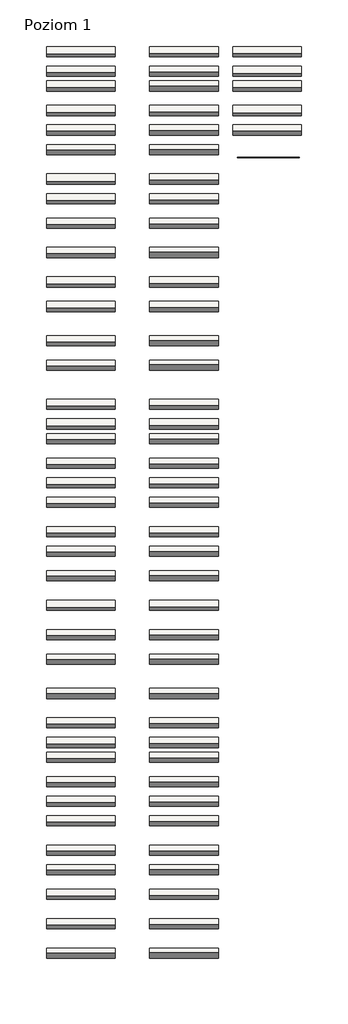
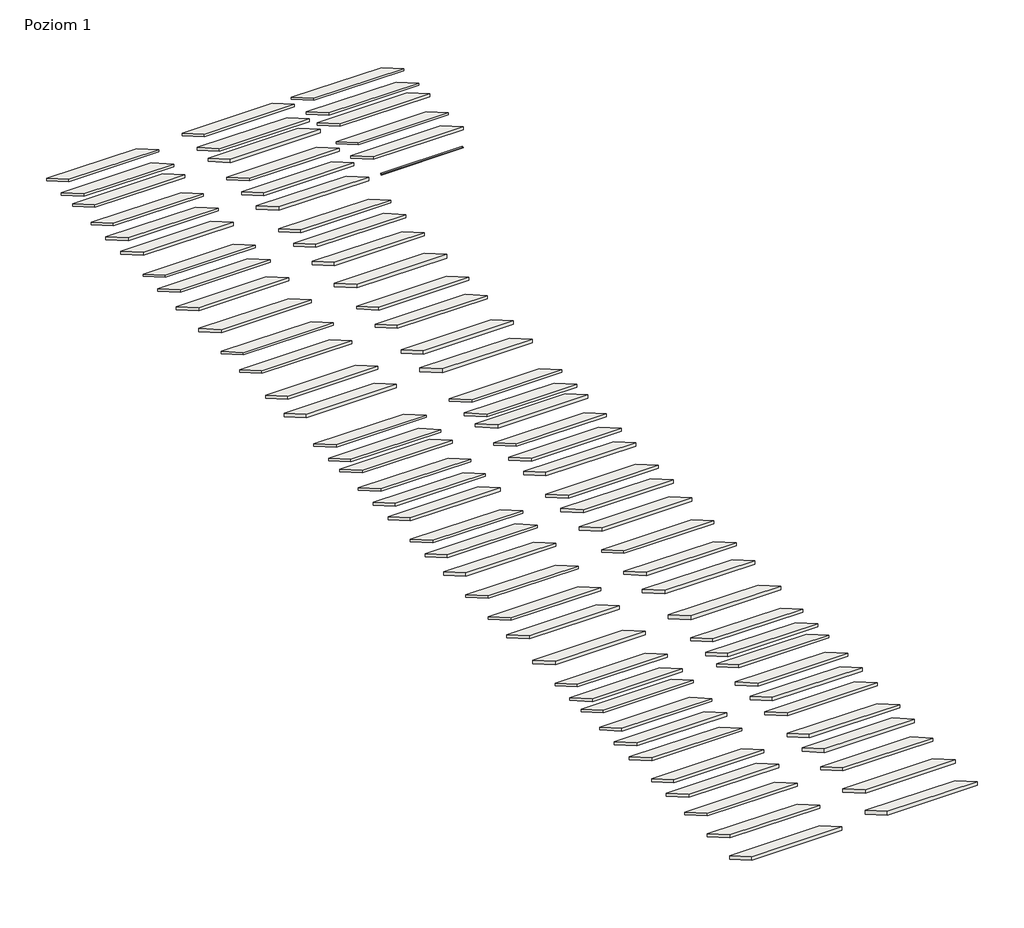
# One storey: 81 roofs, 1 beam.
"""IFC4 building model written with IfcOpenShell, lengths in millimetres."""

from ifc_helpers import new_model, si_unit, frame, origin, place, context, project, spatial, polyline, outline, extrude, transform, mapped, element, save
from components import beam_184x337_66fae1c3

model = new_model("IFC4")

# Units and contexts
model_context = context("Model", 3, world=origin())
ifc_project = project(units=[si_unit("LENGTHUNIT", "METRE", prefix="MILLI")], contexts=[model_context])

# Site, building, storey
site = spatial("IfcSite", under=ifc_project)
building = spatial("IfcBuilding", under=site)
storey = spatial("IfcBuildingStorey", under=building, Name="Poziom 1", Elevation=0.0)

# Beam
placement = place(None, origin())
beam_184x337_shape = beam_184x337_66fae1c3(model_context)
element("IfcBeam", 1, ObjectType="ISOVER - Belka RENOVER : 184x337", at=placement, inside=storey, context=model_context, shape_type="MappedRepresentation", body=[
    mapped(beam_184x337_shape, transform((24338.0764373, -23408.5438841, 1121.5), x_axis=(1.0, 0.0, 0.0), y_axis=(0.0, 1.0, 0.0), z_axis=(0.0, 0.0, 1.0))),
])

# Roofs
element("IfcRoof", 2, ObjectType="ISOVER.DS.M.SUP120_100.U0,17", at=placement, inside=storey, context=model_context, shape_type="SweptSolid", body=[
    extrude(outline(polyline([(-6769.9703244, 3819.1720307), (-769.9703244, 355.0704156), (-769.9703244, 0.0), (-6769.9703244, 3464.1016151), (-6769.9703244, 3819.1720307)])), frame((-20986.0988218, 0.0, 0.0), z_axis=(1.0, 0.0, 0.0), x_axis=(0.0, 1.0, 0.0)), (0.0, 0.0, 1.0), 14000.0),
])
element("IfcRoof", 3, ObjectType="ISOVER.DS.M.SUP120_150.U0,13", at=placement, inside=storey, context=model_context, shape_type="SweptSolid", body=[
    extrude(outline(polyline([(-10769.9703244, 3876.9070576), (-4769.9703244, 412.8054425), (-4769.9703244, 0.0), (-10769.9703244, 3464.1016151), (-10769.9703244, 3876.9070576)])), frame((-20986.0988218, 0.0, 0.0), z_axis=(1.0, 0.0, 0.0), x_axis=(0.0, 1.0, 0.0)), (0.0, 0.0, 1.0), 14000.0),
])
element("IfcRoof", 4, ObjectType="ISOVER.DS.M.SUP120_200.U0,11", at=placement, inside=storey, context=model_context, shape_type="SweptSolid", body=[
    extrude(outline(polyline([(-13769.9703244, 3934.6420845), (-7769.9703244, 470.5404694), (-7769.9703244, 0.0), (-13769.9703244, 3464.1016151), (-13769.9703244, 3934.6420845)])), frame((-20986.0988218, 0.0, 0.0), z_axis=(1.0, 0.0, 0.0), x_axis=(0.0, 1.0, 0.0)), (0.0, 0.0, 1.0), 14000.0),
])
element("IfcRoof", 5, ObjectType="ISOVER.DS.M.SUP150_100.U0,15", at=placement, inside=storey, context=model_context, shape_type="SweptSolid", body=[
    extrude(outline(polyline([(-18769.9703244, 3853.8130468), (-12769.9703244, 389.7114317), (-12769.9703244, 0.0), (-18769.9703244, 3464.1016151), (-18769.9703244, 3853.8130468)])), frame((-20986.0988218, 0.0, 0.0), z_axis=(1.0, 0.0, 0.0), x_axis=(0.0, 1.0, 0.0)), (0.0, 0.0, 1.0), 14000.0),
])
element("IfcRoof", 6, ObjectType="ISOVER.DS.M.SUP150_150.U0,12", at=placement, inside=storey, context=model_context, shape_type="SweptSolid", body=[
    extrude(outline(polyline([(-22769.9703244, 3911.5480738), (-16769.9703244, 447.4464586), (-16769.9703244, 0.0), (-22769.9703244, 3464.1016151), (-22769.9703244, 3911.5480738)])), frame((-20986.0988218, 0.0, 0.0), z_axis=(1.0, 0.0, 0.0), x_axis=(0.0, 1.0, 0.0)), (0.0, 0.0, 1.0), 14000.0),
])
element("IfcRoof", 7, ObjectType="ISOVER.DS.M.SUP150_200.U0,10", at=placement, inside=storey, context=model_context, shape_type="SweptSolid", body=[
    extrude(outline(polyline([(-26769.9703244, 3969.2831007), (-20769.9703244, 505.1814855), (-20769.9703244, 0.0), (-26769.9703244, 3464.1016151), (-26769.9703244, 3969.2831007)])), frame((-20986.0988218, 0.0, 0.0), z_axis=(1.0, 0.0, 0.0), x_axis=(0.0, 1.0, 0.0)), (0.0, 0.0, 1.0), 14000.0),
])
element("IfcRoof", 8, ObjectType="ISOVER.DS.M.SUP180_50.U0,18", at=placement, inside=storey, context=model_context, shape_type="SweptSolid", body=[
    extrude(outline(polyline([(-32769.9703244, 3830.7190361), (-26769.9703244, 366.6174209), (-26769.9703244, 0.0), (-32769.9703244, 3464.1016151), (-32769.9703244, 3830.7190361)])), frame((-20986.0988218, 0.0, 0.0), z_axis=(1.0, 0.0, 0.0), x_axis=(0.0, 1.0, 0.0)), (0.0, 0.0, 1.0), 14000.0),
])
element("IfcRoof", 9, ObjectType="ISOVER.DS.M.SUP180_100.U0,14", at=placement, inside=storey, context=model_context, shape_type="SweptSolid", body=[
    extrude(outline(polyline([(-36769.9703244, 3888.454063), (-30769.9703244, 424.3524479), (-30769.9703244, 0.0), (-36769.9703244, 3464.1016151), (-36769.9703244, 3888.454063)])), frame((-20986.0988218, 0.0, 0.0), z_axis=(1.0, 0.0, 0.0), x_axis=(0.0, 1.0, 0.0)), (0.0, 0.0, 1.0), 14000.0),
])
element("IfcRoof", 10, ObjectType="ISOVER.DS.M.SUP180_150.U0,11", at=placement, inside=storey, context=model_context, shape_type="SweptSolid", body=[
    extrude(outline(polyline([(-41769.9703244, 3946.1890899), (-35769.9703244, 482.0874748), (-35769.9703244, 0.0), (-41769.9703244, 3464.1016151), (-41769.9703244, 3946.1890899)])), frame((-20986.0988218, 0.0, 0.0), z_axis=(1.0, 0.0, 0.0), x_axis=(0.0, 1.0, 0.0)), (0.0, 0.0, 1.0), 14000.0),
])
element("IfcRoof", 11, ObjectType="ISOVER.DS.M.SUP180_200.U0,10", at=placement, inside=storey, context=model_context, shape_type="SweptSolid", body=[
    extrude(outline(polyline([(-47769.9703244, 4003.9241168), (-41769.9703244, 539.8225017), (-41769.9703244, 0.0), (-47769.9703244, 3464.1016151), (-47769.9703244, 4003.9241168)])), frame((-20986.0988218, 0.0, 0.0), z_axis=(1.0, 0.0, 0.0), x_axis=(0.0, 1.0, 0.0)), (0.0, 0.0, 1.0), 14000.0),
])
element("IfcRoof", 12, ObjectType="ISOVER.DS.M.SUP200_50.U0,16", at=placement, inside=storey, context=model_context, shape_type="SweptSolid", body=[
    extrude(outline(polyline([(-53769.9703244, 3853.8130468), (-47769.9703244, 389.7114317), (-47769.9703244, 0.0), (-53769.9703244, 3464.1016151), (-53769.9703244, 3853.8130468)])), frame((-20986.0988218, 0.0, 0.0), z_axis=(1.0, 0.0, 0.0), x_axis=(0.0, 1.0, 0.0)), (0.0, 0.0, 1.0), 14000.0),
])
element("IfcRoof", 13, ObjectType="ISOVER.DS.M.SUP200_100.U0,13", at=placement, inside=storey, context=model_context, shape_type="SweptSolid", body=[
    extrude(outline(polyline([(-58769.9703244, 3911.5480738), (-52769.9703244, 447.4464586), (-52769.9703244, 0.0), (-58769.9703244, 3464.1016151), (-58769.9703244, 3911.5480738)])), frame((-20986.0988218, 0.0, 0.0), z_axis=(1.0, 0.0, 0.0), x_axis=(0.0, 1.0, 0.0)), (0.0, 0.0, 1.0), 14000.0),
])
element("IfcRoof", 14, ObjectType="ISOVER.DS.M.SUP200_150.U0,11", at=placement, inside=storey, context=model_context, shape_type="SweptSolid", body=[
    extrude(outline(polyline([(-65769.9703244, 3969.2831007), (-59769.9703244, 505.1814855), (-59769.9703244, 0.0), (-65769.9703244, 3464.1016151), (-65769.9703244, 3969.2831007)])), frame((-20986.0988218, 0.0, 0.0), z_axis=(1.0, 0.0, 0.0), x_axis=(0.0, 1.0, 0.0)), (0.0, 0.0, 1.0), 14000.0),
])
element("IfcRoof", 15, ObjectType="ISOVER.DS.M.SUP200_200.U0,09", at=placement, inside=storey, context=model_context, shape_type="SweptSolid", body=[
    extrude(outline(polyline([(-70769.9703244, 4027.0181276), (-64769.9703244, 562.9165125), (-64769.9703244, 0.0), (-70769.9703244, 3464.1016151), (-70769.9703244, 4027.0181276)])), frame((-20986.0988218, 0.0, 0.0), z_axis=(1.0, 0.0, 0.0), x_axis=(0.0, 1.0, 0.0)), (0.0, 0.0, 1.0), 14000.0),
])
element("IfcRoof", 16, ObjectType="ISOVER.DS.M.UNI120.SUP100.U0,18", at=placement, inside=storey, context=model_context, shape_type="SweptSolid", body=[
    extrude(outline(polyline([(-78769.9703244, 3819.1720307), (-72769.9703244, 355.0704156), (-72769.9703244, 0.0), (-78769.9703244, 3464.1016151), (-78769.9703244, 3819.1720307)])), frame((-20986.0988218, 0.0, 0.0), z_axis=(1.0, 0.0, 0.0), x_axis=(0.0, 1.0, 0.0)), (0.0, 0.0, 1.0), 14000.0),
])
element("IfcRoof", 17, ObjectType="ISOVER.DS.M.UNI120.SUP150.U0,14", at=placement, inside=storey, context=model_context, shape_type="SweptSolid", body=[
    extrude(outline(polyline([(-82769.9703244, 3876.9070576), (-76769.9703244, 412.8054425), (-76769.9703244, 0.0), (-82769.9703244, 3464.1016151), (-82769.9703244, 3876.9070576)])), frame((-20986.0988218, 0.0, 0.0), z_axis=(1.0, 0.0, 0.0), x_axis=(0.0, 1.0, 0.0)), (0.0, 0.0, 1.0), 14000.0),
])
element("IfcRoof", 18, ObjectType="ISOVER.DS.M.UNI120.SUP200.U0,11", at=placement, inside=storey, context=model_context, shape_type="SweptSolid", body=[
    extrude(outline(polyline([(-85769.9703244, 3934.6420845), (-79769.9703244, 470.5404694), (-79769.9703244, 0.0), (-85769.9703244, 3464.1016151), (-85769.9703244, 3934.6420845)])), frame((-20986.0988218, 0.0, 0.0), z_axis=(1.0, 0.0, 0.0), x_axis=(0.0, 1.0, 0.0)), (0.0, 0.0, 1.0), 14000.0),
])
element("IfcRoof", 19, ObjectType="ISOVER.DS.M.UNI150.SUP100.U0,16", at=placement, inside=storey, context=model_context, shape_type="SweptSolid", body=[
    extrude(outline(polyline([(-90769.9703244, 3853.8130468), (-84769.9703244, 389.7114317), (-84769.9703244, 0.0), (-90769.9703244, 3464.1016151), (-90769.9703244, 3853.8130468)])), frame((-20986.0988218, 0.0, 0.0), z_axis=(1.0, 0.0, 0.0), x_axis=(0.0, 1.0, 0.0)), (0.0, 0.0, 1.0), 14000.0),
])
element("IfcRoof", 20, ObjectType="ISOVER.DS.M.UNI150.SUP150.U0,13", at=placement, inside=storey, context=model_context, shape_type="SweptSolid", body=[
    extrude(outline(polyline([(-94769.9703244, 3911.5480738), (-88769.9703244, 447.4464586), (-88769.9703244, 0.0), (-94769.9703244, 3464.1016151), (-94769.9703244, 3911.5480738)])), frame((-20986.0988218, 0.0, 0.0), z_axis=(1.0, 0.0, 0.0), x_axis=(0.0, 1.0, 0.0)), (0.0, 0.0, 1.0), 14000.0),
])
element("IfcRoof", 21, ObjectType="ISOVER.DS.M.UNI150.SUP200.U0,11", at=placement, inside=storey, context=model_context, shape_type="SweptSolid", body=[
    extrude(outline(polyline([(-98769.9703244, 3969.2831007), (-92769.9703244, 505.1814855), (-92769.9703244, 0.0), (-98769.9703244, 3464.1016151), (-98769.9703244, 3969.2831007)])), frame((-20986.0988218, 0.0, 0.0), z_axis=(1.0, 0.0, 0.0), x_axis=(0.0, 1.0, 0.0)), (0.0, 0.0, 1.0), 14000.0),
])
element("IfcRoof", 22, ObjectType="ISOVER.DS.M.UNI180.SUP100.U0,15", at=placement, inside=storey, context=model_context, shape_type="SweptSolid", body=[
    extrude(outline(polyline([(-104769.9703244, 3888.454063), (-98769.9703244, 424.3524479), (-98769.9703244, 0.0), (-104769.9703244, 3464.1016151), (-104769.9703244, 3888.454063)])), frame((-20986.0988218, 0.0, 0.0), z_axis=(1.0, 0.0, 0.0), x_axis=(0.0, 1.0, 0.0)), (0.0, 0.0, 1.0), 14000.0),
])
element("IfcRoof", 23, ObjectType="ISOVER.DS.M.UNI180.SUP150.U0,12", at=placement, inside=storey, context=model_context, shape_type="SweptSolid", body=[
    extrude(outline(polyline([(-108769.9703244, 3946.1890899), (-102769.9703244, 482.0874748), (-102769.9703244, 0.0), (-108769.9703244, 3464.1016151), (-108769.9703244, 3946.1890899)])), frame((-20986.0988218, 0.0, 0.0), z_axis=(1.0, 0.0, 0.0), x_axis=(0.0, 1.0, 0.0)), (0.0, 0.0, 1.0), 14000.0),
])
element("IfcRoof", 24, ObjectType="ISOVER.DS.M.UNI180.SUP200.U0,10", at=placement, inside=storey, context=model_context, shape_type="SweptSolid", body=[
    extrude(outline(polyline([(-113769.9703244, 4003.9241168), (-107769.9703244, 539.8225017), (-107769.9703244, 0.0), (-113769.9703244, 3464.1016151), (-113769.9703244, 4003.9241168)])), frame((-20986.0988218, 0.0, 0.0), z_axis=(1.0, 0.0, 0.0), x_axis=(0.0, 1.0, 0.0)), (0.0, 0.0, 1.0), 14000.0),
])
element("IfcRoof", 25, ObjectType="ISOVER.DS.M.UNI200.SUP50.U0,18", at=placement, inside=storey, context=model_context, shape_type="SweptSolid", body=[
    extrude(outline(polyline([(-119769.9703244, 3853.8130468), (-113769.9703244, 389.7114317), (-113769.9703244, 0.0), (-119769.9703244, 3464.1016151), (-119769.9703244, 3853.8130468)])), frame((-20986.0988218, 0.0, 0.0), z_axis=(1.0, 0.0, 0.0), x_axis=(0.0, 1.0, 0.0)), (0.0, 0.0, 1.0), 14000.0),
])
element("IfcRoof", 26, ObjectType="ISOVER.DS.M.UNI200.SUP100.U0,14", at=placement, inside=storey, context=model_context, shape_type="SweptSolid", body=[
    extrude(outline(polyline([(-125769.9703244, 3911.5480738), (-119769.9703244, 447.4464586), (-119769.9703244, 0.0), (-125769.9703244, 3464.1016151), (-125769.9703244, 3911.5480738)])), frame((-20986.0988218, 0.0, 0.0), z_axis=(1.0, 0.0, 0.0), x_axis=(0.0, 1.0, 0.0)), (0.0, 0.0, 1.0), 14000.0),
])
element("IfcRoof", 27, ObjectType="ISOVER.DS.M.UNI200.SUP150.U0,11", at=placement, inside=storey, context=model_context, shape_type="SweptSolid", body=[
    extrude(outline(polyline([(-130769.9703244, 3969.2831007), (-124769.9703244, 505.1814855), (-124769.9703244, 0.0), (-130769.9703244, 3464.1016151), (-130769.9703244, 3969.2831007)])), frame((-20986.0988218, 0.0, 0.0), z_axis=(1.0, 0.0, 0.0), x_axis=(0.0, 1.0, 0.0)), (0.0, 0.0, 1.0), 14000.0),
])
element("IfcRoof", 28, ObjectType="ISOVER.DS.M.UNI200.SUP200.U0,10", at=placement, inside=storey, context=model_context, shape_type="SweptSolid", body=[
    extrude(outline(polyline([(-137769.9703244, 4027.0181276), (-131769.9703244, 562.9165125), (-131769.9703244, 0.0), (-137769.9703244, 3464.1016151), (-137769.9703244, 4027.0181276)])), frame((-20986.0988218, 0.0, 0.0), z_axis=(1.0, 0.0, 0.0), x_axis=(0.0, 1.0, 0.0)), (0.0, 0.0, 1.0), 14000.0),
])
element("IfcRoof", 29, ObjectType="ISOVER.DS.M.UNI120_150.U0,15", at=placement, inside=storey, context=model_context, shape_type="SweptSolid", body=[
    extrude(outline(polyline([(-143769.9703244, 3876.9070576), (-137769.9703244, 412.8054425), (-137769.9703244, 0.0), (-143769.9703244, 3464.1016151), (-143769.9703244, 3876.9070576)])), frame((-20986.0988218, 0.0, 0.0), z_axis=(1.0, 0.0, 0.0), x_axis=(0.0, 1.0, 0.0)), (0.0, 0.0, 1.0), 14000.0),
])
element("IfcRoof", 30, ObjectType="ISOVER.DS.M.UNI120_200.U0,13", at=placement, inside=storey, context=model_context, shape_type="SweptSolid", body=[
    extrude(outline(polyline([(-147769.9703244, 3934.6420845), (-141769.9703244, 470.5404694), (-141769.9703244, 0.0), (-147769.9703244, 3464.1016151), (-147769.9703244, 3934.6420845)])), frame((-20986.0988218, 0.0, 0.0), z_axis=(1.0, 0.0, 0.0), x_axis=(0.0, 1.0, 0.0)), (0.0, 0.0, 1.0), 14000.0),
])
element("IfcRoof", 31, ObjectType="ISOVER.DS.M.UNI150_100.U0,17", at=placement, inside=storey, context=model_context, shape_type="SweptSolid", body=[
    extrude(outline(polyline([(-150769.9703244, 3853.8130468), (-144769.9703244, 389.7114317), (-144769.9703244, 0.0), (-150769.9703244, 3464.1016151), (-150769.9703244, 3853.8130468)])), frame((-20986.0988218, 0.0, 0.0), z_axis=(1.0, 0.0, 0.0), x_axis=(0.0, 1.0, 0.0)), (0.0, 0.0, 1.0), 14000.0),
])
element("IfcRoof", 32, ObjectType="ISOVER.DS.M.UNI150_150.U0,14", at=placement, inside=storey, context=model_context, shape_type="SweptSolid", body=[
    extrude(outline(polyline([(-155769.9703244, 3911.5480738), (-149769.9703244, 447.4464586), (-149769.9703244, 0.0), (-155769.9703244, 3464.1016151), (-155769.9703244, 3911.5480738)])), frame((-20986.0988218, 0.0, 0.0), z_axis=(1.0, 0.0, 0.0), x_axis=(0.0, 1.0, 0.0)), (0.0, 0.0, 1.0), 14000.0),
])
element("IfcRoof", 33, ObjectType="ISOVER.DS.M.UNI150_200.U0,12", at=placement, inside=storey, context=model_context, shape_type="SweptSolid", body=[
    extrude(outline(polyline([(-159769.9703244, 3969.2831007), (-153769.9703244, 505.1814855), (-153769.9703244, 0.0), (-159769.9703244, 3464.1016151), (-159769.9703244, 3969.2831007)])), frame((-20986.0988218, 0.0, 0.0), z_axis=(1.0, 0.0, 0.0), x_axis=(0.0, 1.0, 0.0)), (0.0, 0.0, 1.0), 14000.0),
])
element("IfcRoof", 34, ObjectType="ISOVER.DS.M.UNI180_100.U0,16", at=placement, inside=storey, context=model_context, shape_type="SweptSolid", body=[
    extrude(outline(polyline([(-163769.9703244, 3888.454063), (-157769.9703244, 424.3524479), (-157769.9703244, 0.0), (-163769.9703244, 3464.1016151), (-163769.9703244, 3888.454063)])), frame((-20986.0988218, 0.0, 0.0), z_axis=(1.0, 0.0, 0.0), x_axis=(0.0, 1.0, 0.0)), (0.0, 0.0, 1.0), 14000.0),
])
element("IfcRoof", 35, ObjectType="ISOVER.DS.M.UNI180_150.U0,13", at=placement, inside=storey, context=model_context, shape_type="SweptSolid", body=[
    extrude(outline(polyline([(-169769.9703244, 3946.1890899), (-163769.9703244, 482.0874748), (-163769.9703244, 0.0), (-169769.9703244, 3464.1016151), (-169769.9703244, 3946.1890899)])), frame((-20986.0988218, 0.0, 0.0), z_axis=(1.0, 0.0, 0.0), x_axis=(0.0, 1.0, 0.0)), (0.0, 0.0, 1.0), 14000.0),
])
element("IfcRoof", 36, ObjectType="ISOVER.DS.M.UNI180_200.U0,11", at=placement, inside=storey, context=model_context, shape_type="SweptSolid", body=[
    extrude(outline(polyline([(-173769.9703244, 4003.9241168), (-167769.9703244, 539.8225017), (-167769.9703244, 0.0), (-173769.9703244, 3464.1016151), (-173769.9703244, 4003.9241168)])), frame((-20986.0988218, 0.0, 0.0), z_axis=(1.0, 0.0, 0.0), x_axis=(0.0, 1.0, 0.0)), (0.0, 0.0, 1.0), 14000.0),
])
element("IfcRoof", 37, ObjectType="ISOVER.DS.M.UNI200_100.U0,15", at=placement, inside=storey, context=model_context, shape_type="SweptSolid", body=[
    extrude(outline(polyline([(-178769.9703244, 3911.5480738), (-172769.9703244, 447.4464586), (-172769.9703244, 0.0), (-178769.9703244, 3464.1016151), (-178769.9703244, 3911.5480738)])), frame((-20986.0988218, 0.0, 0.0), z_axis=(1.0, 0.0, 0.0), x_axis=(0.0, 1.0, 0.0)), (0.0, 0.0, 1.0), 14000.0),
])
element("IfcRoof", 38, ObjectType="ISOVER.DS.M.UNI200_150.U0,12", at=placement, inside=storey, context=model_context, shape_type="SweptSolid", body=[
    extrude(outline(polyline([(-184769.9703244, 3969.2831007), (-178769.9703244, 505.1814855), (-178769.9703244, 0.0), (-184769.9703244, 3464.1016151), (-184769.9703244, 3969.2831007)])), frame((-20986.0988218, 0.0, 0.0), z_axis=(1.0, 0.0, 0.0), x_axis=(0.0, 1.0, 0.0)), (0.0, 0.0, 1.0), 14000.0),
])
element("IfcRoof", 39, ObjectType="ISOVER.DS.M.UNI200_200.U0,11", at=placement, inside=storey, context=model_context, shape_type="SweptSolid", body=[
    extrude(outline(polyline([(-190769.9703244, 4027.0181276), (-184769.9703244, 562.9165125), (-184769.9703244, 0.0), (-190769.9703244, 3464.1016151), (-190769.9703244, 4027.0181276)])), frame((-20986.0988218, 0.0, 0.0), z_axis=(1.0, 0.0, 0.0), x_axis=(0.0, 1.0, 0.0)), (0.0, 0.0, 1.0), 14000.0),
])
element("IfcRoof", 40, ObjectType="ISOVER.DS.D.SUP120_100.U0,17", at=placement, inside=storey, context=model_context, shape_type="SweptSolid", body=[
    extrude(outline(polyline([(-6769.9703244, 3882.6805603), (-769.9703244, 418.5789452), (-769.9703244, 0.0), (-6769.9703244, 3464.1016151), (-6769.9703244, 3882.6805603)])), frame((113.9011782, 0.0, 0.0), z_axis=(1.0, 0.0, 0.0), x_axis=(0.0, 1.0, 0.0)), (0.0, 0.0, 1.0), 14000.0),
])
element("IfcRoof", 41, ObjectType="ISOVER.DS.D.SUP120_150.U0,13", at=placement, inside=storey, context=model_context, shape_type="SweptSolid", body=[
    extrude(outline(polyline([(-10769.9703244, 3940.4155872), (-4769.9703244, 476.3139721), (-4769.9703244, 0.0), (-10769.9703244, 3464.1016151), (-10769.9703244, 3940.4155872)])), frame((113.9011782, 0.0, 0.0), z_axis=(1.0, 0.0, 0.0), x_axis=(0.0, 1.0, 0.0)), (0.0, 0.0, 1.0), 14000.0),
])
element("IfcRoof", 42, ObjectType="ISOVER.DS.D.SUP120_200.U0,11", at=placement, inside=storey, context=model_context, shape_type="SweptSolid", body=[
    extrude(outline(polyline([(-13769.9703244, 3998.1506141), (-7769.9703244, 534.048999), (-7769.9703244, 0.0), (-13769.9703244, 3464.1016151), (-13769.9703244, 3998.1506141)])), frame((113.9011782, 0.0, 0.0), z_axis=(1.0, 0.0, 0.0), x_axis=(0.0, 1.0, 0.0)), (0.0, 0.0, 1.0), 14000.0),
])
element("IfcRoof", 43, ObjectType="ISOVER.DS.D.SUP150_100.U0,15", at=placement, inside=storey, context=model_context, shape_type="SweptSolid", body=[
    extrude(outline(polyline([(-18769.9703244, 3917.3215765), (-12769.9703244, 453.2199613), (-12769.9703244, 0.0), (-18769.9703244, 3464.1016151), (-18769.9703244, 3917.3215765)])), frame((113.9011782, 0.0, 0.0), z_axis=(1.0, 0.0, 0.0), x_axis=(0.0, 1.0, 0.0)), (0.0, 0.0, 1.0), 14000.0),
])
element("IfcRoof", 44, ObjectType="ISOVER.DS.D.SUP150_150.U0,12", at=placement, inside=storey, context=model_context, shape_type="SweptSolid", body=[
    extrude(outline(polyline([(-22769.9703244, 3975.0566034), (-16769.9703244, 510.9549882), (-16769.9703244, 0.0), (-22769.9703244, 3464.1016151), (-22769.9703244, 3975.0566034)])), frame((113.9011782, 0.0, 0.0), z_axis=(1.0, 0.0, 0.0), x_axis=(0.0, 1.0, 0.0)), (0.0, 0.0, 1.0), 14000.0),
])
element("IfcRoof", 45, ObjectType="ISOVER.DS.D.SUP150_200.U0,10", at=placement, inside=storey, context=model_context, shape_type="SweptSolid", body=[
    extrude(outline(polyline([(-26769.9703244, 4032.7916303), (-20769.9703244, 568.6900152), (-20769.9703244, 0.0), (-26769.9703244, 3464.1016151), (-26769.9703244, 4032.7916303)])), frame((113.9011782, 0.0, 0.0), z_axis=(1.0, 0.0, 0.0), x_axis=(0.0, 1.0, 0.0)), (0.0, 0.0, 1.0), 14000.0),
])
element("IfcRoof", 46, ObjectType="ISOVER.DS.D.SUP180_50.U0,18", at=placement, inside=storey, context=model_context, shape_type="SweptSolid", body=[
    extrude(outline(polyline([(-32769.9703244, 3894.2275657), (-26769.9703244, 430.1259505), (-26769.9703244, 0.0), (-32769.9703244, 3464.1016151), (-32769.9703244, 3894.2275657)])), frame((113.9011782, 0.0, 0.0), z_axis=(1.0, 0.0, 0.0), x_axis=(0.0, 1.0, 0.0)), (0.0, 0.0, 1.0), 14000.0),
])
element("IfcRoof", 47, ObjectType="ISOVER.DS.D.SUP180_100.U0,14", at=placement, inside=storey, context=model_context, shape_type="SweptSolid", body=[
    extrude(outline(polyline([(-36769.9703244, 3951.9625926), (-30769.9703244, 487.8609775), (-30769.9703244, 0.0), (-36769.9703244, 3464.1016151), (-36769.9703244, 3951.9625926)])), frame((113.9011782, 0.0, 0.0), z_axis=(1.0, 0.0, 0.0), x_axis=(0.0, 1.0, 0.0)), (0.0, 0.0, 1.0), 14000.0),
])
element("IfcRoof", 48, ObjectType="ISOVER.DS.D.SUP180_150.U0,11", at=placement, inside=storey, context=model_context, shape_type="SweptSolid", body=[
    extrude(outline(polyline([(-41769.9703244, 4009.6976195), (-35769.9703244, 545.5960044), (-35769.9703244, 0.0), (-41769.9703244, 3464.1016151), (-41769.9703244, 4009.6976195)])), frame((113.9011782, 0.0, 0.0), z_axis=(1.0, 0.0, 0.0), x_axis=(0.0, 1.0, 0.0)), (0.0, 0.0, 1.0), 14000.0),
])
element("IfcRoof", 49, ObjectType="ISOVER.DS.D.SUP180_200.U0,10", at=placement, inside=storey, context=model_context, shape_type="SweptSolid", body=[
    extrude(outline(polyline([(-47769.9703244, 4067.4326464), (-41769.9703244, 603.3310313), (-41769.9703244, 0.0), (-47769.9703244, 3464.1016151), (-47769.9703244, 4067.4326464)])), frame((113.9011782, 0.0, 0.0), z_axis=(1.0, 0.0, 0.0), x_axis=(0.0, 1.0, 0.0)), (0.0, 0.0, 1.0), 14000.0),
])
element("IfcRoof", 50, ObjectType="ISOVER.DS.D.SUP200_50.U0,16", at=placement, inside=storey, context=model_context, shape_type="SweptSolid", body=[
    extrude(outline(polyline([(-53769.9703244, 3917.3215765), (-47769.9703244, 453.2199613), (-47769.9703244, 0.0), (-53769.9703244, 3464.1016151), (-53769.9703244, 3917.3215765)])), frame((113.9011782, 0.0, 0.0), z_axis=(1.0, 0.0, 0.0), x_axis=(0.0, 1.0, 0.0)), (0.0, 0.0, 1.0), 14000.0),
])
element("IfcRoof", 51, ObjectType="ISOVER.DS.D.SUP200_100.U0,13", at=placement, inside=storey, context=model_context, shape_type="SweptSolid", body=[
    extrude(outline(polyline([(-58769.9703244, 3975.0566034), (-52769.9703244, 510.9549882), (-52769.9703244, 0.0), (-58769.9703244, 3464.1016151), (-58769.9703244, 3975.0566034)])), frame((113.9011782, 0.0, 0.0), z_axis=(1.0, 0.0, 0.0), x_axis=(0.0, 1.0, 0.0)), (0.0, 0.0, 1.0), 14000.0),
])
element("IfcRoof", 52, ObjectType="ISOVER.DS.D.SUP200_150.U0,11", at=placement, inside=storey, context=model_context, shape_type="SweptSolid", body=[
    extrude(outline(polyline([(-65769.9703244, 4032.7916303), (-59769.9703244, 568.6900152), (-59769.9703244, 0.0), (-65769.9703244, 3464.1016151), (-65769.9703244, 4032.7916303)])), frame((113.9011782, 0.0, 0.0), z_axis=(1.0, 0.0, 0.0), x_axis=(0.0, 1.0, 0.0)), (0.0, 0.0, 1.0), 14000.0),
])
element("IfcRoof", 53, ObjectType="ISOVER.DS.D.SUP200_200.U0,09", at=placement, inside=storey, context=model_context, shape_type="SweptSolid", body=[
    extrude(outline(polyline([(-70769.9703244, 4090.5266572), (-64769.9703244, 626.4250421), (-64769.9703244, 0.0), (-70769.9703244, 3464.1016151), (-70769.9703244, 4090.5266572)])), frame((113.9011782, 0.0, 0.0), z_axis=(1.0, 0.0, 0.0), x_axis=(0.0, 1.0, 0.0)), (0.0, 0.0, 1.0), 14000.0),
])
element("IfcRoof", 54, ObjectType="ISOVER.DS.D.UNI120.SUP100.U0,18", at=placement, inside=storey, context=model_context, shape_type="SweptSolid", body=[
    extrude(outline(polyline([(-78769.9703244, 3882.6805603), (-72769.9703244, 418.5789452), (-72769.9703244, 0.0), (-78769.9703244, 3464.1016151), (-78769.9703244, 3882.6805603)])), frame((113.9011782, 0.0, 0.0), z_axis=(1.0, 0.0, 0.0), x_axis=(0.0, 1.0, 0.0)), (0.0, 0.0, 1.0), 14000.0),
])
element("IfcRoof", 55, ObjectType="ISOVER.DS.D.UNI120.SUP150.U0,14", at=placement, inside=storey, context=model_context, shape_type="SweptSolid", body=[
    extrude(outline(polyline([(-82769.9703244, 3940.4155872), (-76769.9703244, 476.3139721), (-76769.9703244, 0.0), (-82769.9703244, 3464.1016151), (-82769.9703244, 3940.4155872)])), frame((113.9011782, 0.0, 0.0), z_axis=(1.0, 0.0, 0.0), x_axis=(0.0, 1.0, 0.0)), (0.0, 0.0, 1.0), 14000.0),
])
element("IfcRoof", 56, ObjectType="ISOVER.DS.D.UNI120.SUP200.U0,11", at=placement, inside=storey, context=model_context, shape_type="SweptSolid", body=[
    extrude(outline(polyline([(-85769.9703244, 3998.1506141), (-79769.9703244, 534.048999), (-79769.9703244, 0.0), (-85769.9703244, 3464.1016151), (-85769.9703244, 3998.1506141)])), frame((113.9011782, 0.0, 0.0), z_axis=(1.0, 0.0, 0.0), x_axis=(0.0, 1.0, 0.0)), (0.0, 0.0, 1.0), 14000.0),
])
element("IfcRoof", 57, ObjectType="ISOVER.DS.D.UNI150.SUP100.U0,16", at=placement, inside=storey, context=model_context, shape_type="SweptSolid", body=[
    extrude(outline(polyline([(-90769.9703244, 3917.3215765), (-84769.9703244, 453.2199613), (-84769.9703244, 0.0), (-90769.9703244, 3464.1016151), (-90769.9703244, 3917.3215765)])), frame((113.9011782, 0.0, 0.0), z_axis=(1.0, 0.0, 0.0), x_axis=(0.0, 1.0, 0.0)), (0.0, 0.0, 1.0), 14000.0),
])
element("IfcRoof", 58, ObjectType="ISOVER.DS.D.UNI150.SUP150.U0,13", at=placement, inside=storey, context=model_context, shape_type="SweptSolid", body=[
    extrude(outline(polyline([(-94769.9703244, 3975.0566034), (-88769.9703244, 510.9549882), (-88769.9703244, 0.0), (-94769.9703244, 3464.1016151), (-94769.9703244, 3975.0566034)])), frame((113.9011782, 0.0, 0.0), z_axis=(1.0, 0.0, 0.0), x_axis=(0.0, 1.0, 0.0)), (0.0, 0.0, 1.0), 14000.0),
])
element("IfcRoof", 59, ObjectType="ISOVER.DS.D.UNI150.SUP200.U0,11", at=placement, inside=storey, context=model_context, shape_type="SweptSolid", body=[
    extrude(outline(polyline([(-98769.9703244, 4032.7916303), (-92769.9703244, 568.6900152), (-92769.9703244, 0.0), (-98769.9703244, 3464.1016151), (-98769.9703244, 4032.7916303)])), frame((113.9011782, 0.0, 0.0), z_axis=(1.0, 0.0, 0.0), x_axis=(0.0, 1.0, 0.0)), (0.0, 0.0, 1.0), 14000.0),
])
element("IfcRoof", 60, ObjectType="ISOVER.DS.D.UNI180.SUP100.U0,15", at=placement, inside=storey, context=model_context, shape_type="SweptSolid", body=[
    extrude(outline(polyline([(-104769.9703244, 3951.9625926), (-98769.9703244, 487.8609775), (-98769.9703244, 0.0), (-104769.9703244, 3464.1016151), (-104769.9703244, 3951.9625926)])), frame((113.9011782, 0.0, 0.0), z_axis=(1.0, 0.0, 0.0), x_axis=(0.0, 1.0, 0.0)), (0.0, 0.0, 1.0), 14000.0),
])
element("IfcRoof", 61, ObjectType="ISOVER.DS.D.UNI180.SUP150.U0,12", at=placement, inside=storey, context=model_context, shape_type="SweptSolid", body=[
    extrude(outline(polyline([(-108769.9703244, 4009.6976195), (-102769.9703244, 545.5960044), (-102769.9703244, 0.0), (-108769.9703244, 3464.1016151), (-108769.9703244, 4009.6976195)])), frame((113.9011782, 0.0, 0.0), z_axis=(1.0, 0.0, 0.0), x_axis=(0.0, 1.0, 0.0)), (0.0, 0.0, 1.0), 14000.0),
])
element("IfcRoof", 62, ObjectType="ISOVER.DS.D.UNI180.SUP200.U0,10", at=placement, inside=storey, context=model_context, shape_type="SweptSolid", body=[
    extrude(outline(polyline([(-113769.9703244, 4067.4326464), (-107769.9703244, 603.3310313), (-107769.9703244, 0.0), (-113769.9703244, 3464.1016151), (-113769.9703244, 4067.4326464)])), frame((113.9011782, 0.0, 0.0), z_axis=(1.0, 0.0, 0.0), x_axis=(0.0, 1.0, 0.0)), (0.0, 0.0, 1.0), 14000.0),
])
element("IfcRoof", 63, ObjectType="ISOVER.DS.D.UNI200.SUP50.U0,18", at=placement, inside=storey, context=model_context, shape_type="SweptSolid", body=[
    extrude(outline(polyline([(-119769.9703244, 3917.3215765), (-113769.9703244, 453.2199613), (-113769.9703244, 0.0), (-119769.9703244, 3464.1016151), (-119769.9703244, 3917.3215765)])), frame((113.9011782, 0.0, 0.0), z_axis=(1.0, 0.0, 0.0), x_axis=(0.0, 1.0, 0.0)), (0.0, 0.0, 1.0), 14000.0),
])
element("IfcRoof", 64, ObjectType="ISOVER.DS.D.UNI200.SUP100.U0,14", at=placement, inside=storey, context=model_context, shape_type="SweptSolid", body=[
    extrude(outline(polyline([(-125769.9703244, 3975.0566034), (-119769.9703244, 510.9549882), (-119769.9703244, 0.0), (-125769.9703244, 3464.1016151), (-125769.9703244, 3975.0566034)])), frame((113.9011782, 0.0, 0.0), z_axis=(1.0, 0.0, 0.0), x_axis=(0.0, 1.0, 0.0)), (0.0, 0.0, 1.0), 14000.0),
])
element("IfcRoof", 65, ObjectType="ISOVER.DS.D.UNI200.SUP150.U0,11", at=placement, inside=storey, context=model_context, shape_type="SweptSolid", body=[
    extrude(outline(polyline([(-130769.9703244, 4032.7916303), (-124769.9703244, 568.6900152), (-124769.9703244, 0.0), (-130769.9703244, 3464.1016151), (-130769.9703244, 4032.7916303)])), frame((113.9011782, 0.0, 0.0), z_axis=(1.0, 0.0, 0.0), x_axis=(0.0, 1.0, 0.0)), (0.0, 0.0, 1.0), 14000.0),
])
element("IfcRoof", 66, ObjectType="ISOVER.DS.D.UNI200.SUP200.U0,10", at=placement, inside=storey, context=model_context, shape_type="SweptSolid", body=[
    extrude(outline(polyline([(-137769.9703244, 4090.5266572), (-131769.9703244, 626.4250421), (-131769.9703244, 0.0), (-137769.9703244, 3464.1016151), (-137769.9703244, 4090.5266572)])), frame((113.9011782, 0.0, 0.0), z_axis=(1.0, 0.0, 0.0), x_axis=(0.0, 1.0, 0.0)), (0.0, 0.0, 1.0), 14000.0),
])
element("IfcRoof", 67, ObjectType="ISOVER.DS.D.UNI120_150.U0,15", at=placement, inside=storey, context=model_context, shape_type="SweptSolid", body=[
    extrude(outline(polyline([(-143769.9703244, 3940.4155872), (-137769.9703244, 476.3139721), (-137769.9703244, 0.0), (-143769.9703244, 3464.1016151), (-143769.9703244, 3940.4155872)])), frame((113.9011782, 0.0, 0.0), z_axis=(1.0, 0.0, 0.0), x_axis=(0.0, 1.0, 0.0)), (0.0, 0.0, 1.0), 14000.0),
])
element("IfcRoof", 68, ObjectType="ISOVER.DS.D.UNI120_200.U0,13", at=placement, inside=storey, context=model_context, shape_type="SweptSolid", body=[
    extrude(outline(polyline([(-147769.9703244, 3998.1506141), (-141769.9703244, 534.048999), (-141769.9703244, 0.0), (-147769.9703244, 3464.1016151), (-147769.9703244, 3998.1506141)])), frame((113.9011782, 0.0, 0.0), z_axis=(1.0, 0.0, 0.0), x_axis=(0.0, 1.0, 0.0)), (0.0, 0.0, 1.0), 14000.0),
])
element("IfcRoof", 69, ObjectType="ISOVER.DS.D.UNI150_100.U0,17", at=placement, inside=storey, context=model_context, shape_type="SweptSolid", body=[
    extrude(outline(polyline([(-150769.9703244, 3917.3215765), (-144769.9703244, 453.2199613), (-144769.9703244, 0.0), (-150769.9703244, 3464.1016151), (-150769.9703244, 3917.3215765)])), frame((113.9011782, 0.0, 0.0), z_axis=(1.0, 0.0, 0.0), x_axis=(0.0, 1.0, 0.0)), (0.0, 0.0, 1.0), 14000.0),
])
element("IfcRoof", 70, ObjectType="ISOVER.DS.D.UNI150_150.U0,14", at=placement, inside=storey, context=model_context, shape_type="SweptSolid", body=[
    extrude(outline(polyline([(-155769.9703244, 3975.0566034), (-149769.9703244, 510.9549882), (-149769.9703244, 0.0), (-155769.9703244, 3464.1016151), (-155769.9703244, 3975.0566034)])), frame((113.9011782, 0.0, 0.0), z_axis=(1.0, 0.0, 0.0), x_axis=(0.0, 1.0, 0.0)), (0.0, 0.0, 1.0), 14000.0),
])
element("IfcRoof", 71, ObjectType="ISOVER.DS.D.UNI150_200.U0,12", at=placement, inside=storey, context=model_context, shape_type="SweptSolid", body=[
    extrude(outline(polyline([(-159769.9703244, 4032.7916303), (-153769.9703244, 568.6900152), (-153769.9703244, 0.0), (-159769.9703244, 3464.1016151), (-159769.9703244, 4032.7916303)])), frame((113.9011782, 0.0, 0.0), z_axis=(1.0, 0.0, 0.0), x_axis=(0.0, 1.0, 0.0)), (0.0, 0.0, 1.0), 14000.0),
])
element("IfcRoof", 72, ObjectType="ISOVER.DS.D.UNI180_100.U0,16", at=placement, inside=storey, context=model_context, shape_type="SweptSolid", body=[
    extrude(outline(polyline([(-163769.9703244, 3951.9625926), (-157769.9703244, 487.8609775), (-157769.9703244, 0.0), (-163769.9703244, 3464.1016151), (-163769.9703244, 3951.9625926)])), frame((113.9011782, 0.0, 0.0), z_axis=(1.0, 0.0, 0.0), x_axis=(0.0, 1.0, 0.0)), (0.0, 0.0, 1.0), 14000.0),
])
element("IfcRoof", 73, ObjectType="ISOVER.DS.D.UNI180_150.U0,13", at=placement, inside=storey, context=model_context, shape_type="SweptSolid", body=[
    extrude(outline(polyline([(-169769.9703244, 4009.6976195), (-163769.9703244, 545.5960044), (-163769.9703244, 0.0), (-169769.9703244, 3464.1016151), (-169769.9703244, 4009.6976195)])), frame((113.9011782, 0.0, 0.0), z_axis=(1.0, 0.0, 0.0), x_axis=(0.0, 1.0, 0.0)), (0.0, 0.0, 1.0), 14000.0),
])
element("IfcRoof", 74, ObjectType="ISOVER.DS.D.UNI180_200.U0,11", at=placement, inside=storey, context=model_context, shape_type="SweptSolid", body=[
    extrude(outline(polyline([(-173769.9703244, 4067.4326464), (-167769.9703244, 603.3310313), (-167769.9703244, 0.0), (-173769.9703244, 3464.1016151), (-173769.9703244, 4067.4326464)])), frame((113.9011782, 0.0, 0.0), z_axis=(1.0, 0.0, 0.0), x_axis=(0.0, 1.0, 0.0)), (0.0, 0.0, 1.0), 14000.0),
])
element("IfcRoof", 75, ObjectType="ISOVER.DS.D.UNI200_100.U0,15", at=placement, inside=storey, context=model_context, shape_type="SweptSolid", body=[
    extrude(outline(polyline([(-178769.9703244, 3975.0566034), (-172769.9703244, 510.9549882), (-172769.9703244, 0.0), (-178769.9703244, 3464.1016151), (-178769.9703244, 3975.0566034)])), frame((113.9011782, 0.0, 0.0), z_axis=(1.0, 0.0, 0.0), x_axis=(0.0, 1.0, 0.0)), (0.0, 0.0, 1.0), 14000.0),
])
element("IfcRoof", 76, ObjectType="ISOVER.DS.D.UNI200_150.U0,12", at=placement, inside=storey, context=model_context, shape_type="SweptSolid", body=[
    extrude(outline(polyline([(-184769.9703244, 4032.7916303), (-178769.9703244, 568.6900152), (-178769.9703244, 0.0), (-184769.9703244, 3464.1016151), (-184769.9703244, 4032.7916303)])), frame((113.9011782, 0.0, 0.0), z_axis=(1.0, 0.0, 0.0), x_axis=(0.0, 1.0, 0.0)), (0.0, 0.0, 1.0), 14000.0),
])
element("IfcRoof", 77, ObjectType="ISOVER.DS.D.UNI200_200.U0,11", at=placement, inside=storey, context=model_context, shape_type="SweptSolid", body=[
    extrude(outline(polyline([(-190769.9703244, 4090.5266572), (-184769.9703244, 626.4250421), (-184769.9703244, 0.0), (-190769.9703244, 3464.1016151), (-190769.9703244, 4090.5266572)])), frame((113.9011782, 0.0, 0.0), z_axis=(1.0, 0.0, 0.0), x_axis=(0.0, 1.0, 0.0)), (0.0, 0.0, 1.0), 14000.0),
])
element("IfcRoof", 78, ObjectType="ISOVER.DS.RENOVER.SUP150_50.U0,17", at=placement, inside=storey, context=model_context, shape_type="SweptSolid", body=[
    extrude(outline(polyline([(-6769.9703244, 3796.0780199), (-769.9703244, 331.9764048), (-769.9703244, 0.0), (-6769.9703244, 3464.1016151), (-6769.9703244, 3796.0780199)])), frame((17113.9011782, 0.0, 0.0), z_axis=(1.0, 0.0, 0.0), x_axis=(0.0, 1.0, 0.0)), (0.0, 0.0, 1.0), 14000.0),
])
element("IfcRoof", 79, ObjectType="ISOVER.DS.RENOVER.SUP150_100.U0,15", at=placement, inside=storey, context=model_context, shape_type="SweptSolid", body=[
    extrude(outline(polyline([(-10769.9703244, 3853.8130468), (-4769.9703244, 389.7114317), (-4769.9703244, 0.0), (-10769.9703244, 3464.1016151), (-10769.9703244, 3853.8130468)])), frame((17113.9011782, 0.0, 0.0), z_axis=(1.0, 0.0, 0.0), x_axis=(0.0, 1.0, 0.0)), (0.0, 0.0, 1.0), 14000.0),
])
element("IfcRoof", 80, ObjectType="ISOVER.DS.RENOVER.SUP150_150.U0,13", at=placement, inside=storey, context=model_context, shape_type="SweptSolid", body=[
    extrude(outline(polyline([(-13769.9703244, 3911.5480738), (-7769.9703244, 447.4464586), (-7769.9703244, 0.0), (-13769.9703244, 3464.1016151), (-13769.9703244, 3911.5480738)])), frame((17113.9011782, 0.0, 0.0), z_axis=(1.0, 0.0, 0.0), x_axis=(0.0, 1.0, 0.0)), (0.0, 0.0, 1.0), 14000.0),
])
element("IfcRoof", 81, ObjectType="ISOVER.DS.RENOVER.SUP150_UNI50.U0,18", at=placement, inside=storey, context=model_context, shape_type="SweptSolid", body=[
    extrude(outline(polyline([(-18769.9703244, 3796.0780199), (-12769.9703244, 331.9764048), (-12769.9703244, 0.0), (-18769.9703244, 3464.1016151), (-18769.9703244, 3796.0780199)])), frame((17113.9011782, 0.0, 0.0), z_axis=(1.0, 0.0, 0.0), x_axis=(0.0, 1.0, 0.0)), (0.0, 0.0, 1.0), 14000.0),
])
element("IfcRoof", 82, ObjectType="ISOVER.DS.RENOVER.SUP150_UNI150.U0,14", at=placement, inside=storey, context=model_context, shape_type="SweptSolid", body=[
    extrude(outline(polyline([(-22769.9703244, 3911.5480738), (-16769.9703244, 447.4464586), (-16769.9703244, 0.0), (-22769.9703244, 3464.1016151), (-22769.9703244, 3911.5480738)])), frame((17113.9011782, 0.0, 0.0), z_axis=(1.0, 0.0, 0.0), x_axis=(0.0, 1.0, 0.0)), (0.0, 0.0, 1.0), 14000.0),
])

save(model, "model.ifc")
